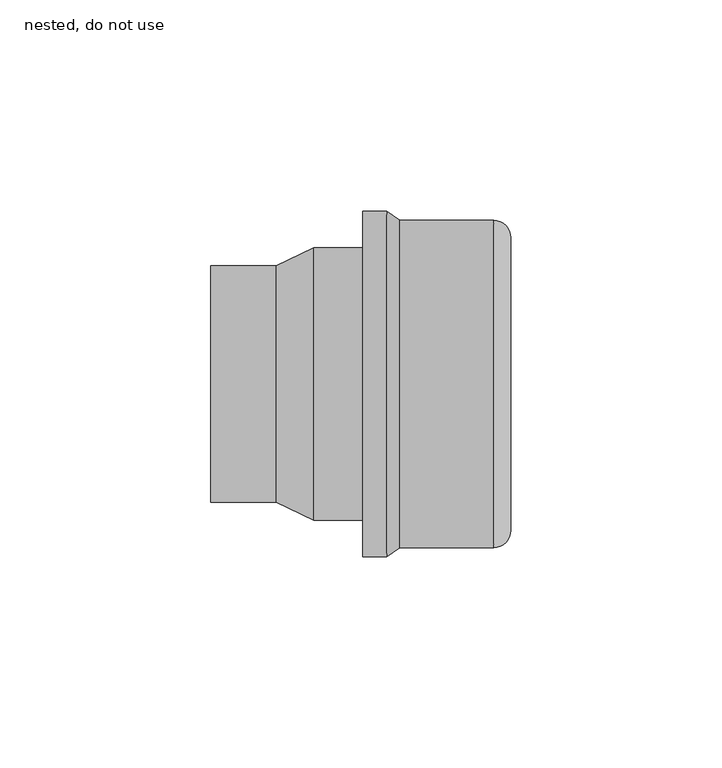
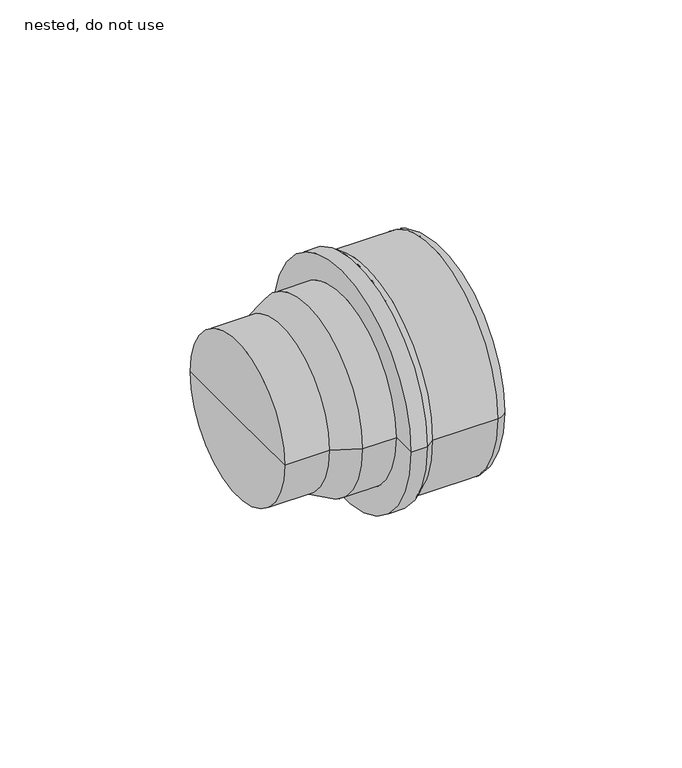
"""IFC4 building model written with IfcOpenShell, lengths in millimetres: pipe fitting geometry, ZZZ_do no use_PIF_HDPE screw coupler -SH_Akatherm : nested, do not use."""

from ifc_helpers import new_model, si_unit, point, frame, origin, place, context, project, spatial, polyline, circle_curve, ellipse_curve, trimmed, source, transform, mapped, element, save
from ifc_brep_helpers import plane_surface, cylinder_surface, revolved_surface, advanced_brep


def nested_do_not_use_e36be62c(model_context):
    return source(origin(), model_context, "Body", "AdvancedBrep", [
        advanced_brep(
        [(-35.5, 0.0, 0.0), (-35.5, 28.0, 0.0), (-35.5, -28.0, 0.0), (35.5, -34.75, 0.0), (35.5, 34.75, 0.0), (35.5, 0.0, 0.0), (31.5, -38.75, 0.0), (31.5, 38.75, 0.0), (9.2, -38.75, 0.0), (9.2, 38.75, 0.0), (6.1, -41.0, 0.0), (6.1, 41.0, 0.0), (0.5, -41.0, 0.0), (0.5, 41.0, 0.0), (0.5, -32.25, 0.0), (0.5, 32.25, 0.0), (-11.1, -32.25, 0.0), (-11.1, 32.25, 0.0), (-20.0, -28.0, 0.0), (-20.0, 28.0, 0.0)],
        [
            (0, 1),
            (1, 2, circle_curve(frame((-35.5, 0.0, 0.0), z_axis=(-1.0, 0.0, 0.0), x_axis=(0.0, 1.0, 0.0)), 28.0)),
            (2, 0),
            (2, 1, circle_curve(frame((-35.5, 0.0, 0.0), z_axis=(-1.0, 0.0, 0.0), x_axis=(0.0, 1.0, 0.0)), 28.0)),
            (3, 4, circle_curve(frame((35.5, 0.0, 0.0), z_axis=(1.0, 0.0, 0.0), x_axis=(0.0, 1.0, 0.0)), 34.75)),
            (4, 5),
            (5, 3),
            (4, 3, circle_curve(frame((35.5, 0.0, 0.0), z_axis=(1.0, 0.0, 0.0), x_axis=(0.0, 1.0, 0.0)), 34.75)),
            (6, 7, circle_curve(frame((31.5, 0.0, 0.0), z_axis=(1.0, 0.0, 0.0), x_axis=(0.0, 1.0, 0.0)), 38.75)),
            (7, 4, circle_curve(frame((31.5, 34.75, 0.0), z_axis=(0.0, 0.0, -1.0), x_axis=(1.0, 0.0, 0.0)), 4.0)),
            (3, 6, circle_curve(frame((31.5, -34.75, 0.0), z_axis=(0.0, 0.0, -1.0), x_axis=(1.0, 0.0, 0.0)), 4.0)),
            (7, 6, circle_curve(frame((31.5, 0.0, 0.0), z_axis=(1.0, 0.0, 0.0), x_axis=(0.0, 1.0, 0.0)), 38.75)),
            (8, 9, circle_curve(frame((9.2, 0.0, 0.0), z_axis=(1.0, 0.0, 0.0), x_axis=(0.0, 1.0, 0.0)), 38.75)),
            (9, 7),
            (6, 8),
            (9, 8, circle_curve(frame((9.2, 0.0, 0.0), z_axis=(1.0, 0.0, 0.0), x_axis=(0.0, 1.0, 0.0)), 38.75)),
            (10, 11, circle_curve(frame((6.1, 0.0, 0.0), z_axis=(1.0, 0.0, 0.0), x_axis=(0.0, 1.0, 0.0)), 41.0)),
            (11, 9),
            (8, 10),
            (11, 10, circle_curve(frame((6.1, 0.0, 0.0), z_axis=(1.0, 0.0, 0.0), x_axis=(0.0, 1.0, 0.0)), 41.0)),
            (12, 13, circle_curve(frame((0.5, 0.0, 0.0), z_axis=(1.0, 0.0, 0.0), x_axis=(0.0, 1.0, 0.0)), 41.0)),
            (13, 11),
            (10, 12),
            (13, 12, circle_curve(frame((0.5, 0.0, 0.0), z_axis=(1.0, 0.0, 0.0), x_axis=(0.0, 1.0, 0.0)), 41.0)),
            (14, 15, circle_curve(frame((0.5, 0.0, 0.0), z_axis=(1.0, 0.0, 0.0), x_axis=(0.0, 1.0, 0.0)), 32.25)),
            (15, 13),
            (12, 14),
            (15, 14, circle_curve(frame((0.5, 0.0, 0.0), z_axis=(1.0, 0.0, 0.0), x_axis=(0.0, 1.0, 0.0)), 32.25)),
            (16, 17, circle_curve(frame((-11.1, 0.0, 0.0), z_axis=(1.0, 0.0, 0.0), x_axis=(0.0, 1.0, 0.0)), 32.25)),
            (17, 15),
            (14, 16),
            (17, 16, circle_curve(frame((-11.1, 0.0, 0.0), z_axis=(1.0, 0.0, 0.0), x_axis=(0.0, 1.0, 0.0)), 32.25)),
            (18, 19, circle_curve(frame((-20.0, 0.0, 0.0), z_axis=(1.0, 0.0, 0.0), x_axis=(0.0, 1.0, 0.0)), 28.0)),
            (19, 17),
            (16, 18),
            (19, 18, circle_curve(frame((-20.0, 0.0, 0.0), z_axis=(1.0, 0.0, 0.0), x_axis=(0.0, 1.0, 0.0)), 28.0)),
            (1, 19),
            (18, 2),
        ],
        [
            plane_surface(frame((-35.5, 0.0, 0.0), z_axis=(-1.0, 0.0, 0.0), x_axis=(0.0, 1.0, 0.0))),
            plane_surface(frame((35.5, 0.0, 0.0), z_axis=(1.0, 0.0, 0.0), x_axis=(0.0, 1.0, 0.0))),
            revolved_surface(trimmed(ellipse_curve(frame((31.5, 34.75, 0.0), z_axis=(0.0, 0.0, 1.0), x_axis=(1.0, 0.0, 0.0)), 4.0, 4.0), [point((35.5, 34.75, 0.0))], [point((31.5, 38.75, 0.0))], True, "CARTESIAN"), (-169.5, 0.0, 0.0), (-1.0, 0.0, 0.0)),
            cylinder_surface(frame((-169.5, 0.0, 0.0), z_axis=(-1.0, 0.0, 0.0), x_axis=(0.0, 1.0, 0.0)), 38.75),
            revolved_surface(polyline([(9.2, 38.75, 0.0), (6.1, 41.0, 0.0)]), (-169.5, 0.0, 0.0), (-1.0, 0.0, 0.0)),
            cylinder_surface(frame((-169.5, 0.0, 0.0), z_axis=(-1.0, 0.0, 0.0), x_axis=(0.0, 1.0, 0.0)), 41.0),
            plane_surface(frame((0.5, 0.0, 0.0), z_axis=(-1.0, 0.0, 0.0), x_axis=(0.0, 1.0, 0.0))),
            cylinder_surface(frame((-169.5, 0.0, 0.0), z_axis=(-1.0, 0.0, 0.0), x_axis=(0.0, 1.0, 0.0)), 32.25),
            revolved_surface(polyline([(-11.1, 32.25, 0.0), (-20.0, 28.0, 0.0)]), (-169.5, 0.0, 0.0), (-1.0, 0.0, 0.0)),
            cylinder_surface(frame((-169.5, 0.0, 0.0), z_axis=(-1.0, 0.0, 0.0), x_axis=(0.0, 1.0, 0.0)), 28.0),
        ],
        [
            (0, [[1, 2, 3]]),
            (0, [[-3, 4, -1]]),
            (1, [[5, 6, 7]]),
            (1, [[8, -7, -6]]),
            (2, [[9, 10, -5, 11]]),
            (2, [[12, -11, -8, -10]]),
            (3, [[13, 14, -9, 15]]),
            (3, [[16, -15, -12, -14]]),
            (4, [[17, 18, -13, 19]]),
            (4, [[20, -19, -16, -18]]),
            (5, [[21, 22, -17, 23]]),
            (5, [[24, -23, -20, -22]]),
            (6, [[25, 26, -21, 27]]),
            (6, [[28, -27, -24, -26]]),
            (7, [[29, 30, -25, 31]]),
            (7, [[32, -31, -28, -30]]),
            (8, [[33, 34, -29, 35]]),
            (8, [[36, -35, -32, -34]]),
            (9, [[-2, 37, -33, 38]]),
            (9, [[-4, -38, -36, -37]]),
        ],
    ),
    ])


if __name__ == "__main__":
    model = new_model("IFC4")
    model_context = context("Model", 3, world=origin())
    ifc_project = project(units=[si_unit("LENGTHUNIT", "METRE", prefix="MILLI")], contexts=[model_context])
    site = spatial("IfcSite", under=ifc_project)
    building = spatial("IfcBuilding", under=site)
    placement = place(None, origin())
    nested_do_not_use_shape = nested_do_not_use_e36be62c(model_context)
    element("IfcPipeFitting", 1, ObjectType="ZZZ_do no use_PIF_HDPE screw coupler -SH_Akatherm : nested, do not use", at=placement, inside=building, context=model_context, shape_type="MappedRepresentation", body=[
        mapped(nested_do_not_use_shape, transform((0.0, 0.0, 0.0), x_axis=(1.0, 0.0, 0.0), y_axis=(0.0, 1.0, 0.0), z_axis=(0.0, 0.0, 1.0))),
    ])
    save(model, "model.ifc")
